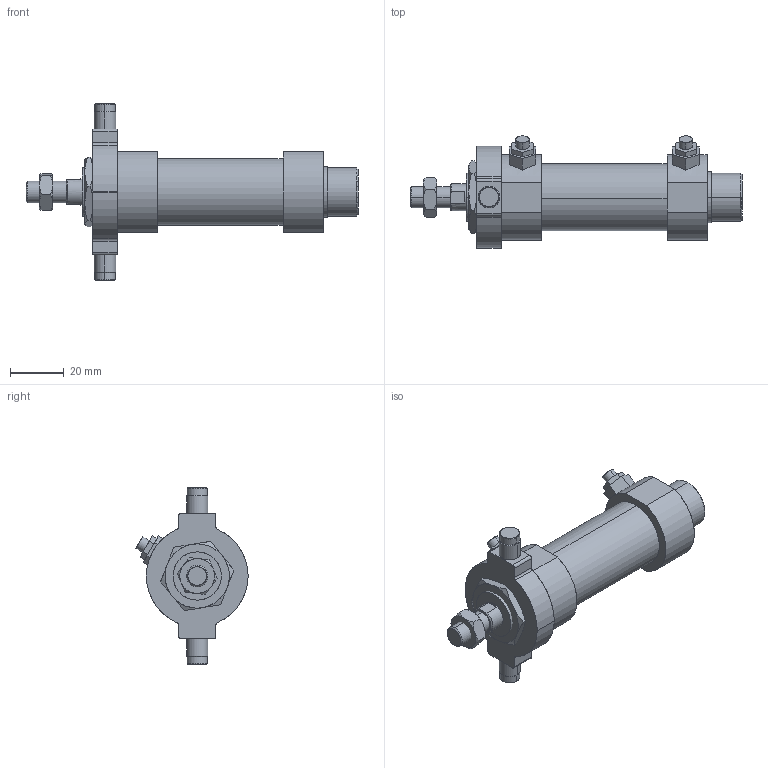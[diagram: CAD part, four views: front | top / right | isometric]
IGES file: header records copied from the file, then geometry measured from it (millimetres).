
Start section: SolidWorks IGES file using analytic representation for surfaces
Global section: file name: C:\Users\Toshiba\Desktop\JG2-20-15-T.IGS; native system: SolidWorks 2014; preprocessor: SolidWorks 2014; author: Toshiba; date: 160419.083451; units: millimetre
Bounding box: 124 x 41.9 x 66 mm (x, y, z)
Surface area: 19715.1 mm2 (no closed solid volume)
Topology: 0 solids, 0 shells, 175 faces, 2608 edges, 2604 vertices
Faces by surface type: bspline 102, revolution 73
